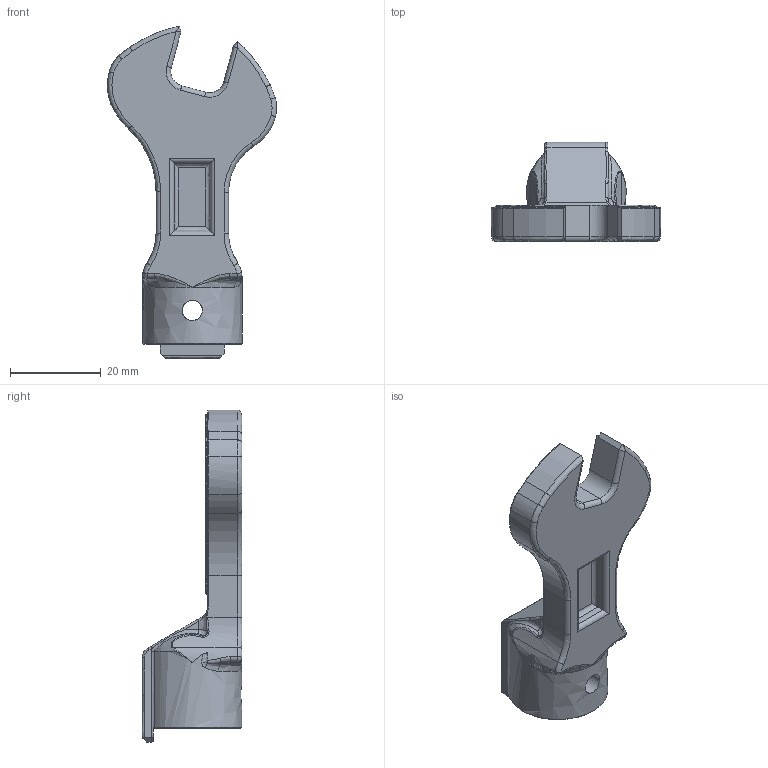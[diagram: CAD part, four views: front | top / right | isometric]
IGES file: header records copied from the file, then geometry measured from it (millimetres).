
Global section: file name: SH15DX12; native system: Autodesk Inventor 2016; preprocessor: unknown; author: Q600; date: 20151029.183617; units: millimetre
Bounding box: 37.34 x 22 x 73.26 mm (x, y, z)
Volume: 12701.2 mm3; surface area: 6307.5 mm2
Topology: 1 solids, 1 shells, 207 faces, 516 edges, 305 vertices
Faces by surface type: bspline 207
